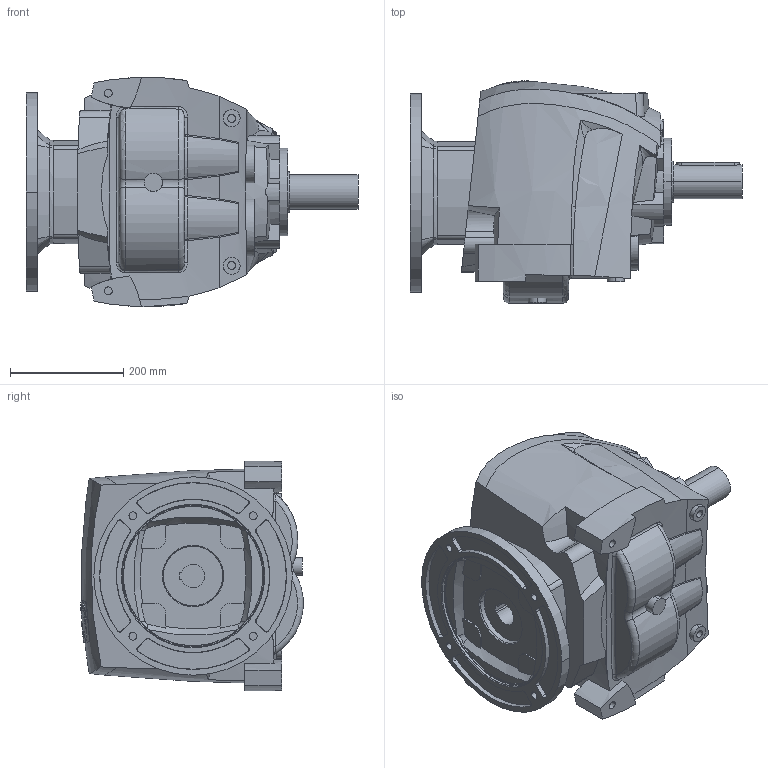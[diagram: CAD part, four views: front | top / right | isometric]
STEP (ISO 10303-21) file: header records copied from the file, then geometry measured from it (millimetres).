
FILE_DESCRIPTION((''),'2;1');
FILE_NAME('R60_UNV_PAM160','2013-12-23T',('Luca'),(''),'PRO/ENGINEER BY PARAMETRIC TECHNOLOGY CORPORATION, 2008230','PRO/ENGINEER BY PARAMETRIC TECHNOLOGY CORPORATION, 2008230','');
FILE_SCHEMA(('CONFIG_CONTROL_DESIGN'));
Length unit declared in the file: millimetre
Products named in the file (1): R60_UNV_PAM160
Bounding box: 585.5 x 392.1 x 404.24 mm (x, y, z)
Volume: 39764971.3 mm3; surface area: 958575 mm2
Topology: 1 solids, 1 shells, 513 faces, 1366 edges, 901 vertices
Faces by surface type: plane 194, cylinder 159, bspline 108, cone 25, torus 14, extrusion 9, sphere 4
Entity records: 22052 total; most frequent: CARTESIAN_POINT 10285, ORIENTED_EDGE 2728, DIRECTION 1971, EDGE_CURVE 1364, VERTEX_POINT 901, AXIS2_PLACEMENT_3D 720, EDGE_LOOP 569, VECTOR 531
